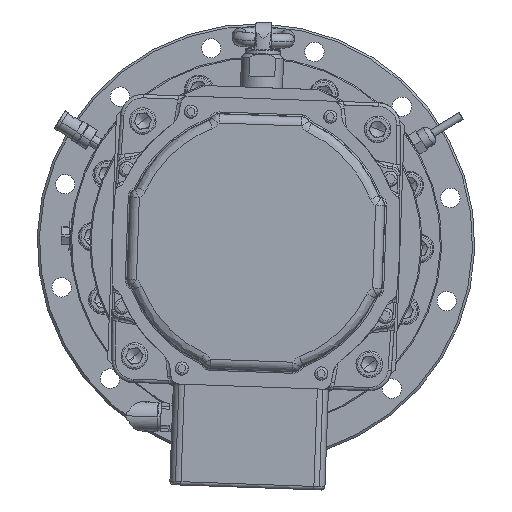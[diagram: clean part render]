
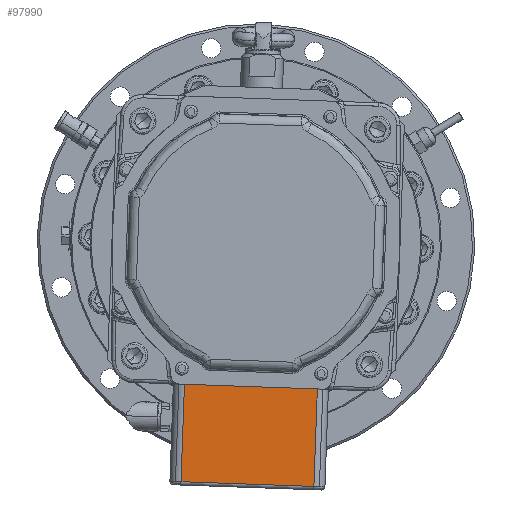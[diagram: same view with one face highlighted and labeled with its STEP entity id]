
A CAD part, front view. The second image highlights one B-rep face of the part: STEP entity #97990.
In plain terms, the highlighted planar face has unit normal (0, -1, 0).
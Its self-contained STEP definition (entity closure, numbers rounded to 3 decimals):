
#1776 = VERTEX_POINT ( 'NONE', #96314 ) ;
#1997 = DIRECTION ( 'NONE',  ( 0., 1., 0. ) ) ;
#3007 = ORIENTED_EDGE ( 'NONE', *, *, #61244, .T. ) ;
#3618 = VECTOR ( 'NONE', #11322, 1000. ) ;
#8103 = AXIS2_PLACEMENT_3D ( 'NONE', #41449, #1997, #58770 ) ;
#10170 = CARTESIAN_POINT ( 'NONE',  ( -4.612, -2145.5, -129.918 ) ) ;
#11322 = DIRECTION ( 'NONE',  ( -0.999, 0., 0.035 ) ) ;
#12866 = VECTOR ( 'NONE', #50692, 1000. ) ;
#23368 = VECTOR ( 'NONE', #50916, 1000. ) ;
#24098 = CARTESIAN_POINT ( 'NONE',  ( 53.79, -2145.5, -176.019 ) ) ;
#27502 = EDGE_CURVE ( 'NONE', #57095, #98375, #100469, .T. ) ;
#30373 = CARTESIAN_POINT ( 'NONE',  ( 52.229, -2145.5, -219.991 ) ) ;
#41449 = CARTESIAN_POINT ( 'NONE',  ( -67.696, -2145.5, -215.734 ) ) ;
#49134 = EDGE_LOOP ( 'NONE', ( #74960, #87043, #81903, #3007 ) ) ;
#50692 = DIRECTION ( 'NONE',  ( 0.999, 0., -0.035 ) ) ;
#50916 = DIRECTION ( 'NONE',  ( -0.035, 0., -0.999 ) ) ;
#52245 = VERTEX_POINT ( 'NONE', #94847 ) ;
#57095 = VERTEX_POINT ( 'NONE', #30373 ) ;
#58770 = DIRECTION ( 'NONE',  ( 0.035, 0., 0.999 ) ) ;
#59969 = CARTESIAN_POINT ( 'NONE',  ( -7.734, -2145.5, -217.863 ) ) ;
#61244 = EDGE_CURVE ( 'NONE', #1776, #52245, #77887, .T. ) ;
#62942 = EDGE_CURVE ( 'NONE', #1776, #98375, #78905, .T. ) ;
#63286 = LINE ( 'NONE', #59969, #3618 ) ;
#68708 = EDGE_CURVE ( 'NONE', #57095, #52245, #63286, .T. ) ;
#72318 = DIRECTION ( 'NONE',  ( 0.035, 0., 0.999 ) ) ;
#74960 = ORIENTED_EDGE ( 'NONE', *, *, #68708, .F. ) ;
#77887 = LINE ( 'NONE', #91271, #23368 ) ;
#78905 = LINE ( 'NONE', #10170, #12866 ) ;
#81903 = ORIENTED_EDGE ( 'NONE', *, *, #62942, .F. ) ;
#82620 = FACE_OUTER_BOUND ( 'NONE', #49134, .T. ) ;
#85404 = CARTESIAN_POINT ( 'NONE',  ( 55.351, -2145.5, -132.047 ) ) ;
#87043 = ORIENTED_EDGE ( 'NONE', *, *, #27502, .T. ) ;
#91271 = CARTESIAN_POINT ( 'NONE',  ( -66.135, -2145.5, -171.762 ) ) ;
#91343 = PLANE ( 'NONE',  #8103 ) ;
#94847 = CARTESIAN_POINT ( 'NONE',  ( -67.696, -2145.5, -215.734 ) ) ;
#96314 = CARTESIAN_POINT ( 'NONE',  ( -64.574, -2145.5, -127.79 ) ) ;
#97926 = VECTOR ( 'NONE', #72318, 1000. ) ;
#97990 = ADVANCED_FACE ( 'NONE', ( #82620 ), #91343, .F. ) ;
#98375 = VERTEX_POINT ( 'NONE', #85404 ) ;
#100469 = LINE ( 'NONE', #24098, #97926 ) ;
